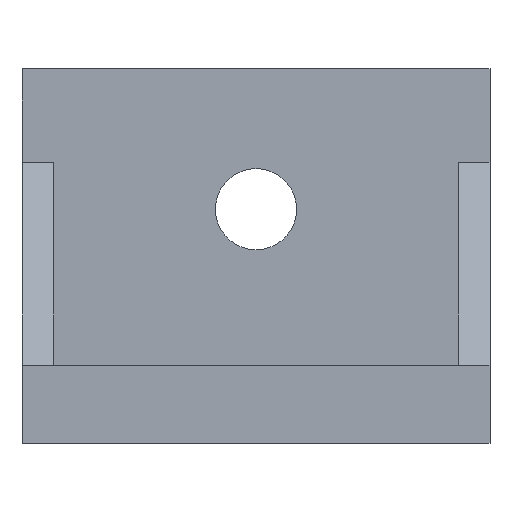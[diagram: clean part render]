
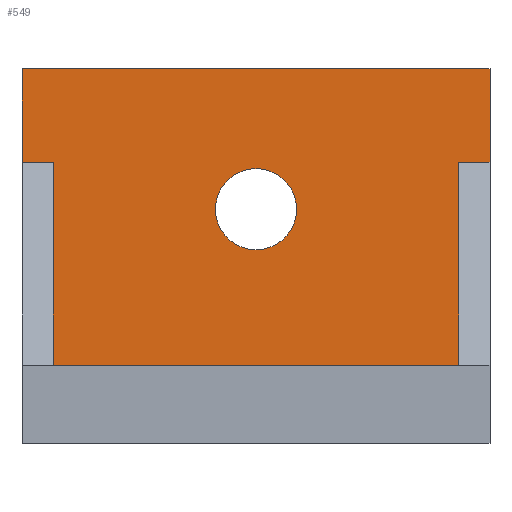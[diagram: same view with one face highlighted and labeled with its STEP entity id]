
A CAD part, front view. The second image highlights one B-rep face of the part: STEP entity #549.
In plain terms, the highlighted planar face has unit normal (0, -1, 0).
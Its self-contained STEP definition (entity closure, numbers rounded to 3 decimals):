
#20=FACE_BOUND('',#79,.T.);
#30=CIRCLE('',#592,2.6);
#49=FACE_OUTER_BOUND('',#78,.T.);
#78=EDGE_LOOP('',(#425,#426,#427,#428,#429,#430,#431,#432));
#79=EDGE_LOOP('',(#433));
#96=LINE('',#759,#164);
#99=LINE('',#765,#167);
#101=LINE('',#769,#169);
#107=LINE('',#780,#175);
#108=LINE('',#782,#176);
#135=LINE('',#854,#203);
#136=LINE('',#856,#204);
#137=LINE('',#857,#205);
#164=VECTOR('',#616,10.);
#167=VECTOR('',#621,10.);
#169=VECTOR('',#625,10.);
#175=VECTOR('',#633,10.);
#176=VECTOR('',#636,10.);
#203=VECTOR('',#703,10.);
#204=VECTOR('',#704,10.);
#205=VECTOR('',#705,10.);
#231=VERTEX_POINT('',#755);
#233=VERTEX_POINT('',#758);
#235=VERTEX_POINT('',#764);
#236=VERTEX_POINT('',#768);
#238=VERTEX_POINT('',#774);
#240=VERTEX_POINT('',#778);
#260=VERTEX_POINT('',#833);
#265=VERTEX_POINT('',#853);
#266=VERTEX_POINT('',#855);
#282=EDGE_CURVE('',#233,#231,#96,.T.);
#285=EDGE_CURVE('',#235,#233,#99,.T.);
#287=EDGE_CURVE('',#235,#236,#101,.T.);
#293=EDGE_CURVE('',#238,#240,#107,.T.);
#294=EDGE_CURVE('',#240,#236,#108,.T.);
#320=EDGE_CURVE('',#260,#260,#30,.T.);
#329=EDGE_CURVE('',#231,#265,#135,.T.);
#330=EDGE_CURVE('',#266,#265,#136,.T.);
#331=EDGE_CURVE('',#238,#266,#137,.T.);
#425=ORIENTED_EDGE('',*,*,#282,.T.);
#426=ORIENTED_EDGE('',*,*,#329,.T.);
#427=ORIENTED_EDGE('',*,*,#330,.F.);
#428=ORIENTED_EDGE('',*,*,#331,.F.);
#429=ORIENTED_EDGE('',*,*,#293,.T.);
#430=ORIENTED_EDGE('',*,*,#294,.T.);
#431=ORIENTED_EDGE('',*,*,#287,.F.);
#432=ORIENTED_EDGE('',*,*,#285,.T.);
#433=ORIENTED_EDGE('',*,*,#320,.T.);
#521=PLANE('',#599);
#549=ADVANCED_FACE('',(#49,#20),#521,.T.);
#592=AXIS2_PLACEMENT_3D('',#835,#681,#682);
#599=AXIS2_PLACEMENT_3D('',#852,#701,#702);
#616=DIRECTION('',(1.,0.,0.));
#621=DIRECTION('',(0.,0.,1.));
#625=DIRECTION('',(-1.,0.,0.));
#633=DIRECTION('',(1.,0.,0.));
#636=DIRECTION('',(0.,0.,-1.));
#681=DIRECTION('center_axis',(0.,1.,0.));
#682=DIRECTION('ref_axis',(-1.,0.,0.));
#701=DIRECTION('center_axis',(0.,-1.,0.));
#702=DIRECTION('ref_axis',(1.,0.,0.));
#703=DIRECTION('',(0.,0.,1.));
#704=DIRECTION('',(1.,0.,0.));
#705=DIRECTION('',(0.,0.,1.));
#755=CARTESIAN_POINT('',(30.,13.,18.));
#758=CARTESIAN_POINT('',(28.,13.,18.));
#759=CARTESIAN_POINT('',(15.,13.,18.));
#764=CARTESIAN_POINT('',(28.,13.,5.));
#765=CARTESIAN_POINT('',(28.,13.,8.25));
#768=CARTESIAN_POINT('',(2.,13.,5.));
#769=CARTESIAN_POINT('',(7.5,13.,5.));
#774=CARTESIAN_POINT('',(0.,13.,18.));
#778=CARTESIAN_POINT('',(2.,13.,18.));
#780=CARTESIAN_POINT('',(0.,13.,18.));
#782=CARTESIAN_POINT('',(2.,13.,8.25));
#833=CARTESIAN_POINT('',(17.6,13.,15.));
#835=CARTESIAN_POINT('Origin',(15.,13.,15.));
#852=CARTESIAN_POINT('Origin',(0.,13.,5.));
#853=CARTESIAN_POINT('',(30.,13.,24.));
#854=CARTESIAN_POINT('',(30.,13.,5.));
#855=CARTESIAN_POINT('',(0.,13.,24.));
#856=CARTESIAN_POINT('',(0.,13.,24.));
#857=CARTESIAN_POINT('',(0.,13.,5.));
